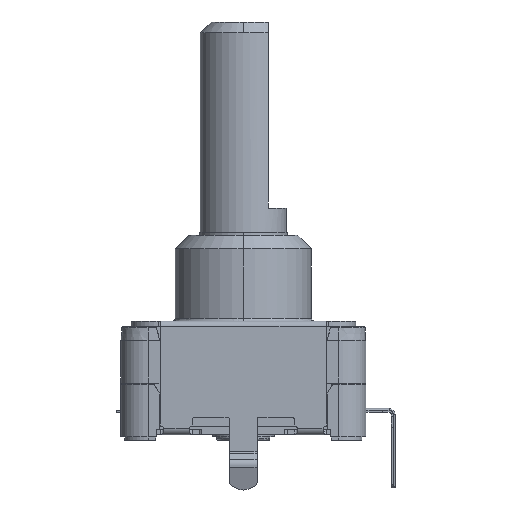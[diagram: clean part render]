
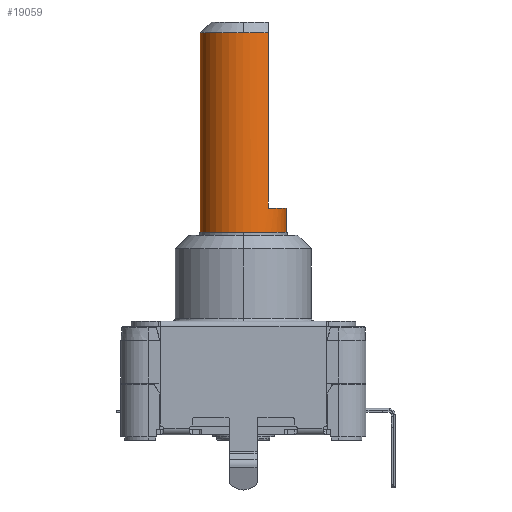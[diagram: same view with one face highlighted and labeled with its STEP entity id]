
A CAD part, left-side view. The second image highlights one B-rep face of the part: STEP entity #19059.
In plain terms, the highlighted cylindrical face has radius 3.163 mm (diameter 6.325 mm), a partial arc.
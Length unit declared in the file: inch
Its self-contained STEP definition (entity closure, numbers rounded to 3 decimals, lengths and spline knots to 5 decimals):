
#11577 = CARTESIAN_POINT ( 'NONE',  ( 0., -0.12451, 0.60118 ) ) ;
#17095 = DIRECTION ( 'NONE',  ( 0., 0., -1. ) ) ;
#17096 = VECTOR ( 'NONE', #17095, 39.37008 ) ;
#17097 = CARTESIAN_POINT ( 'NONE',  ( 0., 0.12451, 1.23667 ) ) ;
#17098 = LINE ( 'NONE', #17097, #17096 ) ;
#17099 = DIRECTION ( 'NONE',  ( 1., 0., 0. ) ) ;
#17100 = DIRECTION ( 'NONE',  ( 0., 0., -1. ) ) ;
#17101 = CARTESIAN_POINT ( 'NONE',  ( 0., 0., 0.67165 ) ) ;
#17102 = AXIS2_PLACEMENT_3D ( 'NONE', #17101, #17100, #17099 ) ;
#17103 = CIRCLE ( 'NONE', #17102, 0.12451 ) ;
#17104 = CARTESIAN_POINT ( 'NONE',  ( -0.10122, -0.0725, 0.67165 ) ) ;
#17134 = FACE_OUTER_BOUND ( 'NONE', #19053, .T. ) ;
#17135 = DIRECTION ( 'NONE',  ( 1., 0., 0. ) ) ;
#17136 = DIRECTION ( 'NONE',  ( 0., 0., -1. ) ) ;
#17137 = CARTESIAN_POINT ( 'NONE',  ( 0., 0., 0.60118 ) ) ;
#17138 = AXIS2_PLACEMENT_3D ( 'NONE', #17137, #17136, #17135 ) ;
#17139 = CIRCLE ( 'NONE', #17138, 0.12451 ) ;
#17166 = CARTESIAN_POINT ( 'NONE',  ( 0., 0.12451, 0.60118 ) ) ;
#17167 = DIRECTION ( 'NONE',  ( 1., 0., 0. ) ) ;
#17168 = DIRECTION ( 'NONE',  ( 0., 0., 1. ) ) ;
#17169 = AXIS2_PLACEMENT_3D ( 'NONE', #17171, #17168, #17167 ) ;
#17170 = CYLINDRICAL_SURFACE ( 'NONE', #17169, 0.12451 ) ;
#17171 = CARTESIAN_POINT ( 'NONE',  ( 0., 0., 1.23667 ) ) ;
#17187 = DIRECTION ( 'NONE',  ( 0., 0., 1. ) ) ;
#17188 = VECTOR ( 'NONE', #17187, 39.37008 ) ;
#17189 = CARTESIAN_POINT ( 'NONE',  ( -0.10122, -0.0725, 1.23667 ) ) ;
#17190 = LINE ( 'NONE', #17189, #17188 ) ;
#17197 = DIRECTION ( 'NONE',  ( 1., 0., 0. ) ) ;
#17198 = DIRECTION ( 'NONE',  ( 0., 0., -1. ) ) ;
#17199 = AXIS2_PLACEMENT_3D ( 'NONE', #17205, #17198, #17197 ) ;
#17200 = CIRCLE ( 'NONE', #17199, 0.12451 ) ;
#17205 = CARTESIAN_POINT ( 'NONE',  ( 0., 0., 1.17795 ) ) ;
#19044 = VERTEX_POINT ( 'NONE', #17104 ) ;
#19045 = EDGE_CURVE ( 'NONE', #22900, #19044, #17103, .T. ) ;
#19047 = ORIENTED_EDGE ( 'NONE', *, *, #25537, .T. ) ;
#19048 = ORIENTED_EDGE ( 'NONE', *, *, #19070, .T. ) ;
#19049 = EDGE_CURVE ( 'NONE', #23563, #19060, #17098, .T. ) ;
#19052 = ORIENTED_EDGE ( 'NONE', *, *, #22841, .T. ) ;
#19053 = EDGE_LOOP ( 'NONE', ( #19048, #19047, #19067, #19097, #19057, #19052, #23511 ) ) ;
#19057 = ORIENTED_EDGE ( 'NONE', *, *, #19058, .F. ) ;
#19058 = EDGE_CURVE ( 'NONE', #34647, #19060, #17139, .T. ) ;
#19059 = ADVANCED_FACE ( 'NONE', ( #17134 ), #17170, .T. ) ;
#19060 = VERTEX_POINT ( 'NONE', #17166 ) ;
#19065 = EDGE_CURVE ( 'NONE', #25344, #23563, #17200, .T. ) ;
#19067 = ORIENTED_EDGE ( 'NONE', *, *, #19065, .T. ) ;
#19070 = EDGE_CURVE ( 'NONE', #19044, #25548, #17190, .T. ) ;
#19097 = ORIENTED_EDGE ( 'NONE', *, *, #19049, .T. ) ;
#22841 = EDGE_CURVE ( 'NONE', #34647, #22900, #30525, .T. ) ;
#22900 = VERTEX_POINT ( 'NONE', #30517 ) ;
#23511 = ORIENTED_EDGE ( 'NONE', *, *, #19045, .T. ) ;
#23563 = VERTEX_POINT ( 'NONE', #31594 ) ;
#25344 = VERTEX_POINT ( 'NONE', #35014 ) ;
#25537 = EDGE_CURVE ( 'NONE', #25548, #25344, #35347, .T. ) ;
#25548 = VERTEX_POINT ( 'NONE', #35391 ) ;
#30517 = CARTESIAN_POINT ( 'NONE',  ( 0., -0.12451, 0.67165 ) ) ;
#30520 = DIRECTION ( 'NONE',  ( 0., 0., 1. ) ) ;
#30521 = VECTOR ( 'NONE', #30520, 39.37008 ) ;
#30523 = CARTESIAN_POINT ( 'NONE',  ( 0., -0.12451, 1.23667 ) ) ;
#30525 = LINE ( 'NONE', #30523, #30521 ) ;
#31594 = CARTESIAN_POINT ( 'NONE',  ( 0., 0.12451, 1.17795 ) ) ;
#34647 = VERTEX_POINT ( 'NONE', #11577 ) ;
#35014 = CARTESIAN_POINT ( 'NONE',  ( -0.12451, 0., 1.17795 ) ) ;
#35343 = DIRECTION ( 'NONE',  ( 1., 0., 0. ) ) ;
#35344 = DIRECTION ( 'NONE',  ( 0., 0., -1. ) ) ;
#35345 = CARTESIAN_POINT ( 'NONE',  ( 0., 0., 1.17795 ) ) ;
#35346 = AXIS2_PLACEMENT_3D ( 'NONE', #35345, #35344, #35343 ) ;
#35347 = CIRCLE ( 'NONE', #35346, 0.12451 ) ;
#35391 = CARTESIAN_POINT ( 'NONE',  ( -0.10122, -0.0725, 1.17795 ) ) ;
